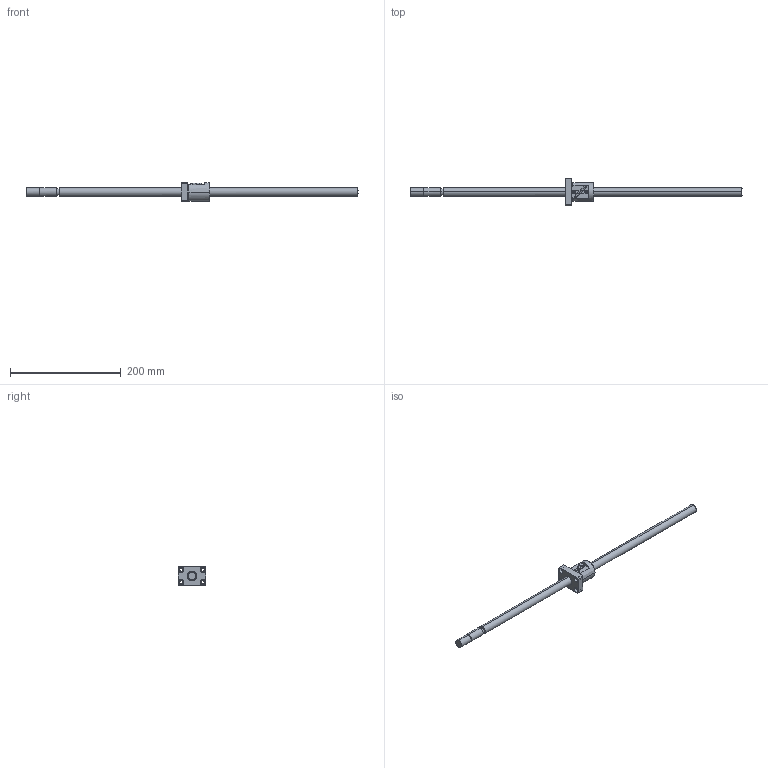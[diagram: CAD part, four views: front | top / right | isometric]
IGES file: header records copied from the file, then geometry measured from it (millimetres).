
Global section: file name: No Iges File Name specified; native system: AutoDesk Inventor R10; preprocessor: AutoDesk Inventor Iges Exporter R10; author: No Author specified; organization: No Organization specified; date: 20101224.140549; units: millimetre
Bounding box: 600 x 50 x 34 mm (x, y, z)
Surface area: 41871.1 mm2 (no closed solid volume)
Topology: 0 solids, 0 shells, 132 faces, 948 edges, 948 vertices
Faces by surface type: bspline 132
